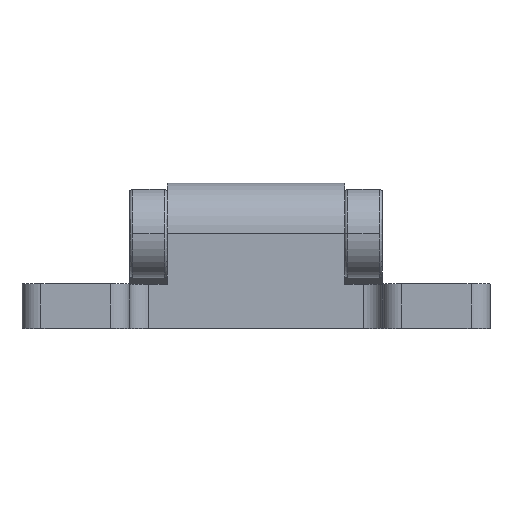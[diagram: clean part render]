
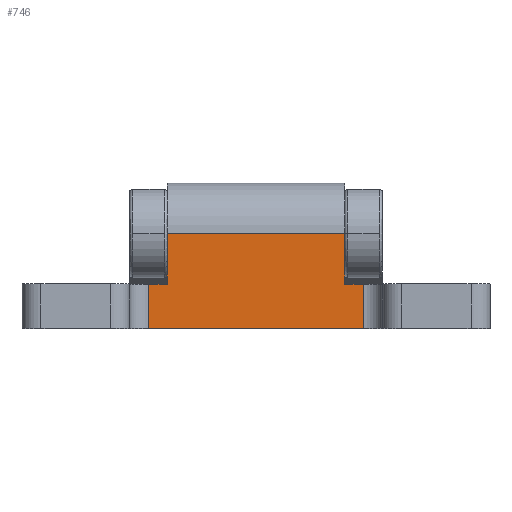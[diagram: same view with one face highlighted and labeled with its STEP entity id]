
A CAD part, top view. The second image highlights one B-rep face of the part: STEP entity #746.
In plain terms, the highlighted planar face has unit normal (0, 0, 1) as drawn and (0, 0, -1) by its records, which use the part's own axes.
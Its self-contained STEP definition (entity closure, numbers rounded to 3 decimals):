
#96 = EDGE_CURVE ( 'NONE', #3495, #2336, #973, .T. ) ;
#118 = EDGE_CURVE ( 'NONE', #2336, #802, #2296, .T. ) ;
#140 = CARTESIAN_POINT ( 'NONE',  ( -17., 3.5, 2.5 ) ) ;
#152 = DIRECTION ( 'NONE',  ( 1., 0., 0. ) ) ;
#181 = ORIENTED_EDGE ( 'NONE', *, *, #1348, .T. ) ;
#253 = VECTOR ( 'NONE', #1814, 1000. ) ;
#373 = ORIENTED_EDGE ( 'NONE', *, *, #2550, .F. ) ;
#408 = DIRECTION ( 'NONE',  ( 0., -1., 0. ) ) ;
#495 = DIRECTION ( 'NONE',  ( 0., 0., 1. ) ) ;
#517 = LINE ( 'NONE', #2948, #253 ) ;
#542 = ORIENTED_EDGE ( 'NONE', *, *, #913, .T. ) ;
#624 = EDGE_CURVE ( 'NONE', #2143, #802, #2472, .T. ) ;
#629 = LINE ( 'NONE', #1329, #1302 ) ;
#637 = VERTEX_POINT ( 'NONE', #140 ) ;
#741 = CARTESIAN_POINT ( 'NONE',  ( 17., -3.5, 2.5 ) ) ;
#746 = ADVANCED_FACE ( 'NONE', ( #996 ), #1344, .F. ) ;
#802 = VERTEX_POINT ( 'NONE', #741 ) ;
#913 = EDGE_CURVE ( 'NONE', #2143, #637, #629, .T. ) ;
#923 = VERTEX_POINT ( 'NONE', #1909 ) ;
#973 = LINE ( 'NONE', #1334, #3136 ) ;
#996 = FACE_OUTER_BOUND ( 'NONE', #2582, .T. ) ;
#1004 = ORIENTED_EDGE ( 'NONE', *, *, #2834, .T. ) ;
#1063 = VECTOR ( 'NONE', #1644, 1000. ) ;
#1302 = VECTOR ( 'NONE', #3326, 1000. ) ;
#1329 = CARTESIAN_POINT ( 'NONE',  ( -17., 3.5, 2.5 ) ) ;
#1334 = CARTESIAN_POINT ( 'NONE',  ( -20., 3.5, 2.5 ) ) ;
#1344 = PLANE ( 'NONE',  #3666 ) ;
#1348 = EDGE_CURVE ( 'NONE', #923, #3495, #3659, .T. ) ;
#1388 = VECTOR ( 'NONE', #408, 1000. ) ;
#1406 = ORIENTED_EDGE ( 'NONE', *, *, #96, .T. ) ;
#1489 = CARTESIAN_POINT ( 'NONE',  ( -17., -3.5, 2.5 ) ) ;
#1566 = DIRECTION ( 'NONE',  ( 1., 0., 0. ) ) ;
#1567 = VERTEX_POINT ( 'NONE', #2331 ) ;
#1644 = DIRECTION ( 'NONE',  ( 0., -1., 0. ) ) ;
#1650 = EDGE_CURVE ( 'NONE', #1567, #923, #2756, .T. ) ;
#1718 = CARTESIAN_POINT ( 'NONE',  ( 17., 3.5, 2.5 ) ) ;
#1814 = DIRECTION ( 'NONE',  ( 0., -1., 0. ) ) ;
#1845 = CARTESIAN_POINT ( 'NONE',  ( 0., -3.5, 2.5 ) ) ;
#1895 = DIRECTION ( 'NONE',  ( 1., 0., 0. ) ) ;
#1909 = CARTESIAN_POINT ( 'NONE',  ( 14., 11.5, 2.5 ) ) ;
#1939 = DIRECTION ( 'NONE',  ( 1., 0., 0. ) ) ;
#1980 = CARTESIAN_POINT ( 'NONE',  ( 14., 3.5, 2.5 ) ) ;
#1994 = VECTOR ( 'NONE', #152, 1000. ) ;
#2100 = CARTESIAN_POINT ( 'NONE',  ( 14., 74.749, 2.5 ) ) ;
#2143 = VERTEX_POINT ( 'NONE', #1489 ) ;
#2165 = VERTEX_POINT ( 'NONE', #3499 ) ;
#2194 = CARTESIAN_POINT ( 'NONE',  ( -20., -16.5, 2.5 ) ) ;
#2296 = LINE ( 'NONE', #3350, #1063 ) ;
#2331 = CARTESIAN_POINT ( 'NONE',  ( -14., 11.5, 2.5 ) ) ;
#2336 = VERTEX_POINT ( 'NONE', #1718 ) ;
#2472 = LINE ( 'NONE', #1845, #3134 ) ;
#2477 = DIRECTION ( 'NONE',  ( 1., 0., 0. ) ) ;
#2513 = ORIENTED_EDGE ( 'NONE', *, *, #624, .F. ) ;
#2521 = ORIENTED_EDGE ( 'NONE', *, *, #118, .T. ) ;
#2550 = EDGE_CURVE ( 'NONE', #1567, #2165, #517, .T. ) ;
#2582 = EDGE_LOOP ( 'NONE', ( #373, #3687, #181, #1406, #2521, #2513, #542, #1004 ) ) ;
#2624 = VECTOR ( 'NONE', #1939, 1000. ) ;
#2703 = CARTESIAN_POINT ( 'NONE',  ( 14., 11.5, 2.5 ) ) ;
#2756 = LINE ( 'NONE', #2703, #1994 ) ;
#2784 = CARTESIAN_POINT ( 'NONE',  ( -20., 3.5, 2.5 ) ) ;
#2834 = EDGE_CURVE ( 'NONE', #637, #2165, #3384, .T. ) ;
#2948 = CARTESIAN_POINT ( 'NONE',  ( -14., 74.749, 2.5 ) ) ;
#3134 = VECTOR ( 'NONE', #1566, 1000. ) ;
#3136 = VECTOR ( 'NONE', #1895, 1000. ) ;
#3326 = DIRECTION ( 'NONE',  ( 0., 1., 0. ) ) ;
#3350 = CARTESIAN_POINT ( 'NONE',  ( 17., -3.5, 2.5 ) ) ;
#3384 = LINE ( 'NONE', #2784, #2624 ) ;
#3495 = VERTEX_POINT ( 'NONE', #1980 ) ;
#3499 = CARTESIAN_POINT ( 'NONE',  ( -14., 3.5, 2.5 ) ) ;
#3659 = LINE ( 'NONE', #2100, #1388 ) ;
#3666 = AXIS2_PLACEMENT_3D ( 'NONE', #2194, #495, #2477 ) ;
#3687 = ORIENTED_EDGE ( 'NONE', *, *, #1650, .T. ) ;
